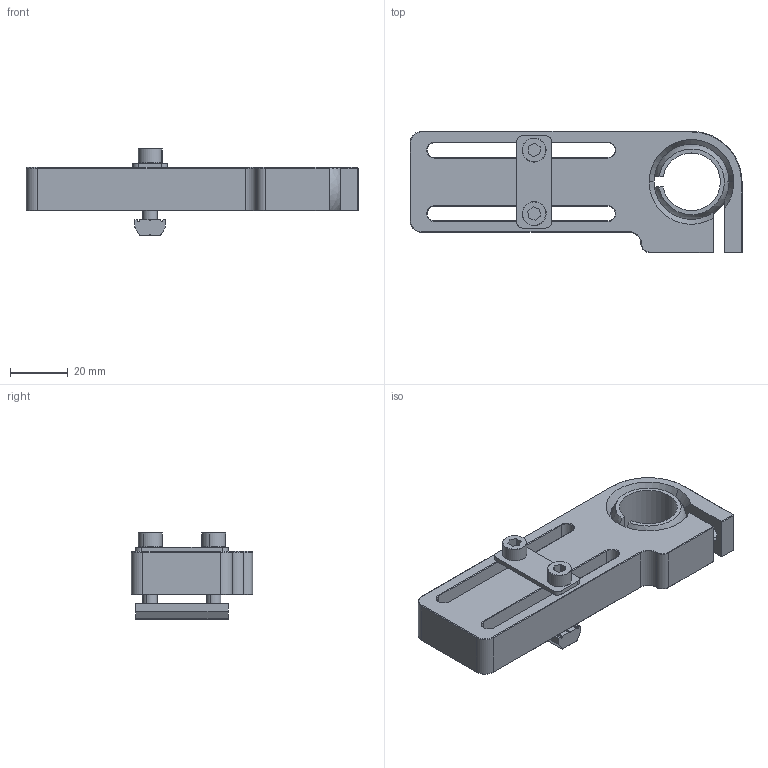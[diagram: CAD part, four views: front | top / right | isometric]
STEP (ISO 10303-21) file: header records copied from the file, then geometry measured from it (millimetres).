
FILE_DESCRIPTION (( 'STEP AP214' ), '1' );
FILE_NAME ('SMBE8-2060T.STEP', '2023-03-03T08:19:58', ( 'Windows User' ), ( 'P R C' ), 'SwSTEP 2.0', 'SolidWorks 2019', '' );
FILE_SCHEMA (( 'AUTOMOTIVE_DESIGN' ));
Length unit declared in the file: millimetre
Products named in the file (6): SMBE8-2060球关节重型固定支架; PTN-M5P22; PTD-M5P22; SMBE8-2060T; PTC-M5L25; SMBE8-2060⑩壽誹
Assembly tree (6 placements, depth 2):
  SMBE8-2060T
    SMBE8-2060球关节重型固定支架
    SMBE8-2060⑩壽誹
    PTD-M5P22
    PTN-M5P22
    PTC-M5L25  x2
Bounding box: 115 x 42 x 30 mm (x, y, z)
Volume: 49223.3 mm3; surface area: 21803.2 mm2
Topology: 6 solids, 6 shells, 219 faces, 567 edges, 355 vertices
Faces by surface type: plane 95, cylinder 65, cone 42, torus 12, sphere 5
Entity records: 6402 total; most frequent: CARTESIAN_POINT 1230, DIRECTION 1038, ORIENTED_EDGE 1022, EDGE_CURVE 511, AXIS2_PLACEMENT_3D 379, VERTEX_POINT 321, VECTOR 280, LINE 280
